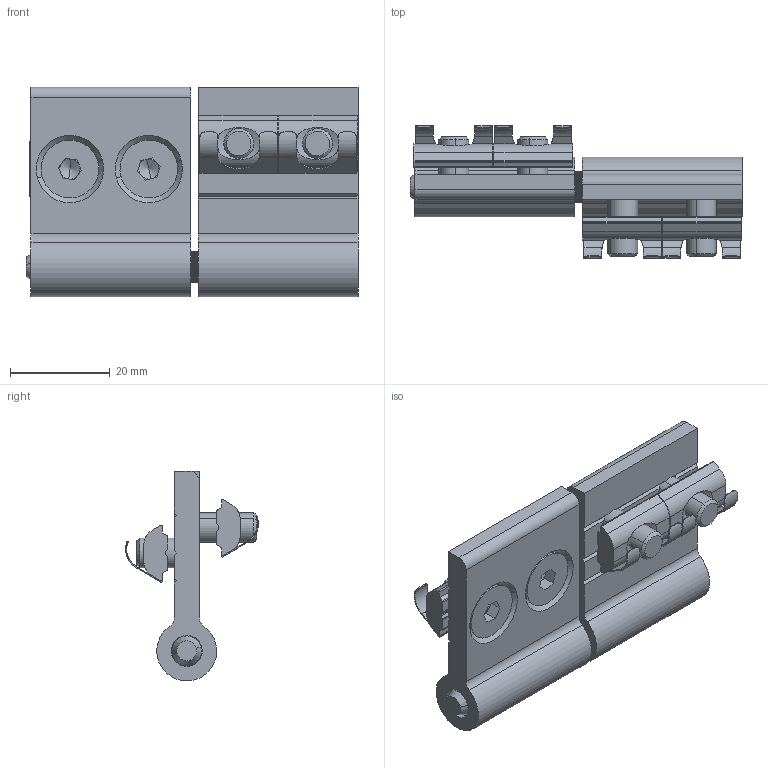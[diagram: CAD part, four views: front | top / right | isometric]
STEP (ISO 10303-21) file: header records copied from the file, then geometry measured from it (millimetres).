
FILE_DESCRIPTION (( 'STEP AP214' ), '1' );
FILE_NAME ('1.4049 Sarana 40-30.STEP', '2025-09-15T08:19:46', ( '' ), ( '' ), 'SwSTEP 2.0', 'SolidWorks 2025', '' );
FILE_SCHEMA (( 'AUTOMOTIVE_DESIGN' ));
Length unit declared in the file: millimetre
Products named in the file (1): 1.4049 Sarana 40-30
Bounding box: 66.5 x 26.59 x 42 mm (x, y, z)
Volume: 19571.1 mm3; surface area: 14778.2 mm2
Topology: 11 solids, 11 shells, 758 faces, 1924 edges, 1244 vertices
Faces by surface type: plane 498, cylinder 208, cone 44, torus 8
Entity records: 31651 total; most frequent: CARTESIAN_POINT 4679, DIRECTION 3882, ORIENTED_EDGE 3832, EDGE_CURVE 1916, AXIS2_PLACEMENT_3D 1343, VERTEX_POINT 1244, LINE 1196, VECTOR 1196
